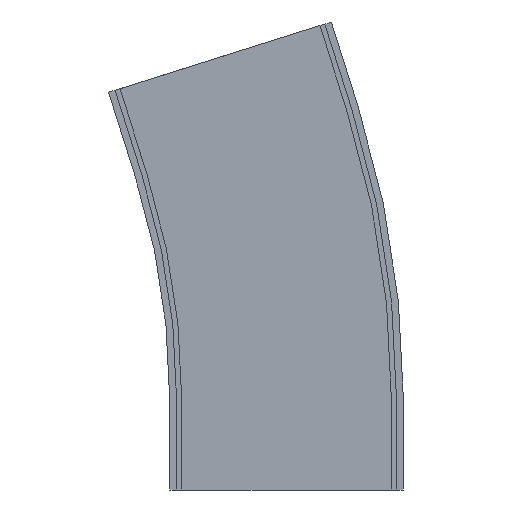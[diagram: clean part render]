
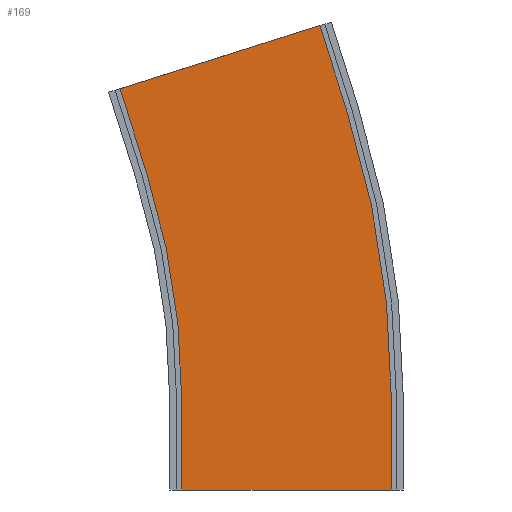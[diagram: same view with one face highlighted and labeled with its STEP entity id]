
A CAD part, left-side view. The second image highlights one B-rep face of the part: STEP entity #169.
In plain terms, the highlighted planar face has unit normal (-1, 0, 0).
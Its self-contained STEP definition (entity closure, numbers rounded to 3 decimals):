
#3 = ORIENTED_EDGE ( 'NONE', *, *, #1397, .T. ) ;
#40 = EDGE_CURVE ( 'NONE', #263, #1236, #896, .T. ) ;
#66 = EDGE_CURVE ( 'NONE', #803, #345, #289, .T. ) ;
#78 = EDGE_CURVE ( 'NONE', #345, #718, #249, .T. ) ;
#80 = ORIENTED_EDGE ( 'NONE', *, *, #454, .T. ) ;
#85 = DIRECTION ( 'NONE',  ( 0., -1., 0. ) ) ;
#158 = DIRECTION ( 'NONE',  ( 0., 0., 1. ) ) ;
#161 = LINE ( 'NONE', #702, #563 ) ;
#169 = ADVANCED_FACE ( 'NONE', ( #303 ), #1189, .F. ) ;
#189 = DIRECTION ( 'NONE',  ( -1., 0., 0. ) ) ;
#249 = LINE ( 'NONE', #567, #334 ) ;
#262 = ORIENTED_EDGE ( 'NONE', *, *, #78, .F. ) ;
#263 = VERTEX_POINT ( 'NONE', #887 ) ;
#282 = EDGE_CURVE ( 'NONE', #615, #658, #161, .T. ) ;
#289 = LINE ( 'NONE', #768, #814 ) ;
#303 = FACE_OUTER_BOUND ( 'NONE', #521, .T. ) ;
#306 = DIRECTION ( 'NONE',  ( 0., 0.301, 0.954 ) ) ;
#321 = EDGE_CURVE ( 'NONE', #615, #803, #982, .T. ) ;
#334 = VECTOR ( 'NONE', #988, 1000. ) ;
#345 = VERTEX_POINT ( 'NONE', #405 ) ;
#348 = DIRECTION ( 'NONE',  ( 0., 1., 0. ) ) ;
#405 = CARTESIAN_POINT ( 'NONE',  ( -249.5, 97.344, 234.505 ) ) ;
#428 = EDGE_CURVE ( 'NONE', #263, #1078, #444, .T. ) ;
#432 = CARTESIAN_POINT ( 'NONE',  ( -249.5, -61.25, 0. ) ) ;
#444 = CIRCLE ( 'NONE', #1146, 561.25 ) ;
#453 = ORIENTED_EDGE ( 'NONE', *, *, #40, .F. ) ;
#454 = EDGE_CURVE ( 'NONE', #1078, #718, #650, .T. ) ;
#474 = DIRECTION ( 'NONE',  ( 0., 0.301, 0.954 ) ) ;
#486 = ORIENTED_EDGE ( 'NONE', *, *, #428, .T. ) ;
#521 = EDGE_LOOP ( 'NONE', ( #3, #453, #486, #80, #262, #1097, #531, #990 ) ) ;
#531 = ORIENTED_EDGE ( 'NONE', *, *, #321, .F. ) ;
#563 = VECTOR ( 'NONE', #610, 1000. ) ;
#567 = CARTESIAN_POINT ( 'NONE',  ( -249.5, -19.487, 271.341 ) ) ;
#596 = CARTESIAN_POINT ( 'NONE',  ( -249.5, 500., 52.5 ) ) ;
#610 = DIRECTION ( 'NONE',  ( 0., 0., -1. ) ) ;
#615 = VERTEX_POINT ( 'NONE', #657 ) ;
#630 = CARTESIAN_POINT ( 'NONE',  ( -249.5, -35.274, 221.271 ) ) ;
#638 = CARTESIAN_POINT ( 'NONE',  ( -249.5, 81.557, 184.435 ) ) ;
#643 = DIRECTION ( 'NONE',  ( 0., 0., -1. ) ) ;
#650 = LINE ( 'NONE', #630, #682 ) ;
#657 = CARTESIAN_POINT ( 'NONE',  ( -249.5, 61.25, 52.5 ) ) ;
#658 = VERTEX_POINT ( 'NONE', #1086 ) ;
#682 = VECTOR ( 'NONE', #306, 1000. ) ;
#702 = CARTESIAN_POINT ( 'NONE',  ( -249.5, 61.25, 52.5 ) ) ;
#718 = VERTEX_POINT ( 'NONE', #1093 ) ;
#768 = CARTESIAN_POINT ( 'NONE',  ( -249.5, 81.557, 184.435 ) ) ;
#803 = VERTEX_POINT ( 'NONE', #638 ) ;
#814 = VECTOR ( 'NONE', #474, 1000. ) ;
#830 = VECTOR ( 'NONE', #85, 1000. ) ;
#869 = CARTESIAN_POINT ( 'NONE',  ( -249.5, -61.25, 52.5 ) ) ;
#887 = CARTESIAN_POINT ( 'NONE',  ( -249.5, -61.25, 52.5 ) ) ;
#896 = LINE ( 'NONE', #949, #1217 ) ;
#949 = CARTESIAN_POINT ( 'NONE',  ( -249.5, -61.25, 52.5 ) ) ;
#982 = CIRCLE ( 'NONE', #1340, 438.75 ) ;
#984 = DIRECTION ( 'NONE',  ( 1., 0., 0. ) ) ;
#988 = DIRECTION ( 'NONE',  ( 0., -0.954, 0.301 ) ) ;
#990 = ORIENTED_EDGE ( 'NONE', *, *, #282, .T. ) ;
#1022 = LINE ( 'NONE', #1153, #830 ) ;
#1055 = CARTESIAN_POINT ( 'NONE',  ( -249.5, 500., 52.5 ) ) ;
#1078 = VERTEX_POINT ( 'NONE', #1385 ) ;
#1086 = CARTESIAN_POINT ( 'NONE',  ( -249.5, 61.25, 0. ) ) ;
#1093 = CARTESIAN_POINT ( 'NONE',  ( -249.5, -19.487, 271.341 ) ) ;
#1097 = ORIENTED_EDGE ( 'NONE', *, *, #66, .F. ) ;
#1105 = AXIS2_PLACEMENT_3D ( 'NONE', #869, #984, #348 ) ;
#1146 = AXIS2_PLACEMENT_3D ( 'NONE', #1055, #189, #1263 ) ;
#1153 = CARTESIAN_POINT ( 'NONE',  ( -249.5, -61.25, 0. ) ) ;
#1189 = PLANE ( 'NONE',  #1105 ) ;
#1217 = VECTOR ( 'NONE', #643, 1000. ) ;
#1236 = VERTEX_POINT ( 'NONE', #432 ) ;
#1246 = DIRECTION ( 'NONE',  ( -1., 0., 0. ) ) ;
#1263 = DIRECTION ( 'NONE',  ( 0., 0., 1. ) ) ;
#1340 = AXIS2_PLACEMENT_3D ( 'NONE', #596, #1246, #158 ) ;
#1385 = CARTESIAN_POINT ( 'NONE',  ( -249.5, -35.274, 221.271 ) ) ;
#1397 = EDGE_CURVE ( 'NONE', #658, #1236, #1022, .T. ) ;
